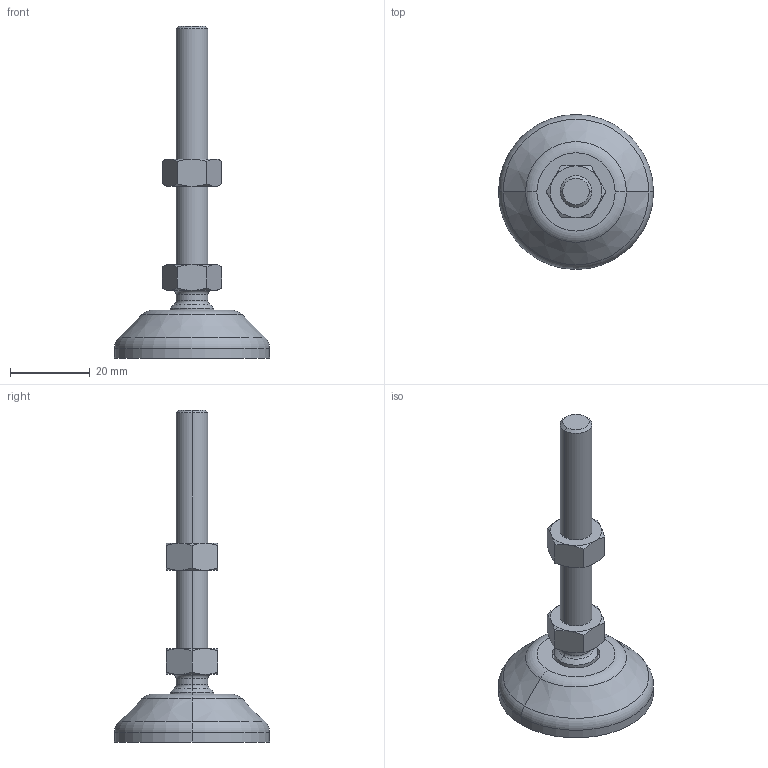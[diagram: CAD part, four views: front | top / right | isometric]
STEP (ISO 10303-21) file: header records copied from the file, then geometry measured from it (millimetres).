
FILE_DESCRIPTION (( 'STEP AP203' ), '1' );
FILE_NAME ('0108SD40M8X80.STEP', '2024-09-06T10:53:42', ( 'Windows-Benutzer' ), ( '' ), 'SwSTEP 2.0', 'SolidWorks 2024', '' );
FILE_SCHEMA (( 'CONFIG_CONTROL_DESIGN' ));
Length unit declared in the file: millimetre
Products named in the file (4): Stellfuß Schwenkbolzen M8x80 für FP D40; Hexagon Nut ISO 4032 - M8 - D - N-ST8_8-ZN_Hexagon Nut ISO 4032 - M8 - D - N-ST8_8-ZN; 0108SD40M8X80; Stellfuß Bodenplatte D40 zu M8 Schwenkbolzen
Assembly tree (3 placements, depth 2):
  0108SD40M8X80
    Stellfuß Schwenkbolzen M8x80 für FP D40
    Stellfuß Bodenplatte D40 zu M8 Schwenkbolzen
    Hexagon Nut ISO 4032 - M8 - D - N-ST8_8-ZN_Hexagon Nut ISO 4032 - M8 - D - N-ST8_8-ZN
Bounding box: 39 x 39 x 83.5 mm (x, y, z)
Volume: 16164.3 mm3; surface area: 6257.3 mm2
Topology: 3 solids, 3 shells, 80 faces, 168 edges, 95 vertices
Faces by surface type: cone 34, plane 20, cylinder 14, torus 10, sphere 2
Entity records: 2558 total; most frequent: CARTESIAN_POINT 527, DIRECTION 368, ORIENTED_EDGE 328, AXIS2_PLACEMENT_3D 166, EDGE_CURVE 164, VERTEX_POINT 93, EDGE_LOOP 85, ADVANCED_FACE 80
